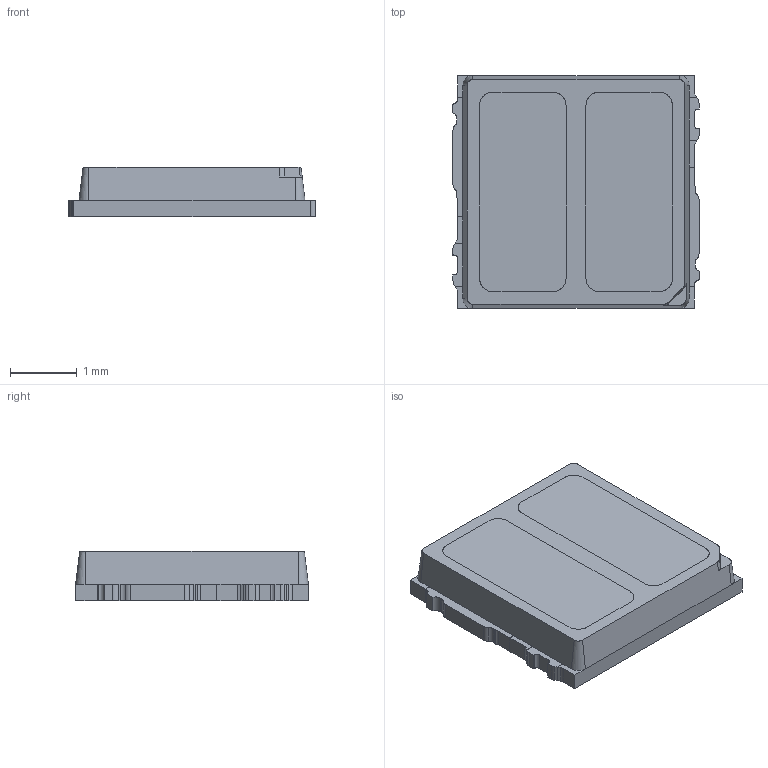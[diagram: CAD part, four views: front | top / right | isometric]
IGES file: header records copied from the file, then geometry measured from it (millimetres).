
Start section: SolidWorks IGES file using analytic representation for surfaces
Global section: file name: C:\Users\user\Desktop\XYY\1-车灯产品3D图汇总\Bi-color\LAWD-OK\LAWD-模型图\LAWD.IGS; native system: SolidWorks 2022; preprocessor: SolidWorks 2022; author: user; date: 250331.102606; units: millimetre
Bounding box: 3.7 x 3.5 x 0.75 mm (x, y, z)
Surface area: 62 mm2 (no closed solid volume)
Topology: 0 solids, 0 shells, 276 faces, 2608 edges, 3380 vertices
Faces by surface type: bspline 194, revolution 82
